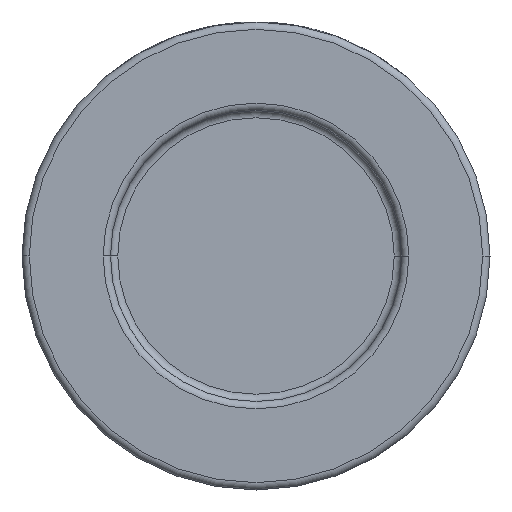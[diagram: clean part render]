
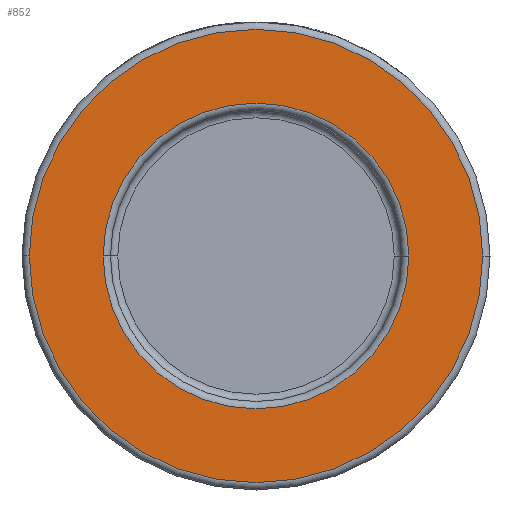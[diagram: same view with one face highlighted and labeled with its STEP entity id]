
A CAD part, front view. The second image highlights one B-rep face of the part: STEP entity #852.
In plain terms, the highlighted planar face has unit normal (0, -1, 0).
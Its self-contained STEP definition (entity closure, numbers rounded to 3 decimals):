
#107 = AXIS2_PLACEMENT_3D ( 'NONE', #349, #1408, #2802 ) ;
#213 = DIRECTION ( 'NONE',  ( 1., 0., 0. ) ) ;
#349 = CARTESIAN_POINT ( 'NONE',  ( 0., -22., 0. ) ) ;
#396 = EDGE_CURVE ( 'NONE', #1656, #647, #3660, .T. ) ;
#517 = CIRCLE ( 'NONE', #1252, 31. ) ;
#521 = AXIS2_PLACEMENT_3D ( 'NONE', #1319, #996, #213 ) ;
#599 = ORIENTED_EDGE ( 'NONE', *, *, #2928, .T. ) ;
#647 = VERTEX_POINT ( 'NONE', #1336 ) ;
#852 = ADVANCED_FACE ( 'NONE', ( #4519, #2651 ), #4079, .T. ) ;
#897 = DIRECTION ( 'NONE',  ( 1., 0., 0. ) ) ;
#932 = CARTESIAN_POINT ( 'NONE',  ( 31., -22., 0. ) ) ;
#996 = DIRECTION ( 'NONE',  ( 0., -1., 0. ) ) ;
#1105 = CIRCLE ( 'NONE', #521, 31. ) ;
#1111 = VERTEX_POINT ( 'NONE', #932 ) ;
#1252 = AXIS2_PLACEMENT_3D ( 'NONE', #1603, #1650, #2365 ) ;
#1319 = CARTESIAN_POINT ( 'NONE',  ( 0., -22., 0. ) ) ;
#1336 = CARTESIAN_POINT ( 'NONE',  ( 20.9, -22., 0. ) ) ;
#1408 = DIRECTION ( 'NONE',  ( 0., 1., 0. ) ) ;
#1603 = CARTESIAN_POINT ( 'NONE',  ( 0., -22., 0. ) ) ;
#1636 = VERTEX_POINT ( 'NONE', #2753 ) ;
#1650 = DIRECTION ( 'NONE',  ( 0., -1., 0. ) ) ;
#1656 = VERTEX_POINT ( 'NONE', #3849 ) ;
#1761 = EDGE_LOOP ( 'NONE', ( #2279, #3126 ) ) ;
#1826 = AXIS2_PLACEMENT_3D ( 'NONE', #2241, #3038, #2265 ) ;
#2241 = CARTESIAN_POINT ( 'NONE',  ( 0., -22., 0. ) ) ;
#2265 = DIRECTION ( 'NONE',  ( 1., 0., 0. ) ) ;
#2279 = ORIENTED_EDGE ( 'NONE', *, *, #3013, .T. ) ;
#2365 = DIRECTION ( 'NONE',  ( 1., 0., 0. ) ) ;
#2651 = FACE_OUTER_BOUND ( 'NONE', #4172, .T. ) ;
#2753 = CARTESIAN_POINT ( 'NONE',  ( -31., -22., 0. ) ) ;
#2802 = DIRECTION ( 'NONE',  ( 1., 0., 0. ) ) ;
#2928 = EDGE_CURVE ( 'NONE', #1636, #1111, #517, .T. ) ;
#3013 = EDGE_CURVE ( 'NONE', #647, #1656, #3106, .T. ) ;
#3038 = DIRECTION ( 'NONE',  ( 0., 1., 0. ) ) ;
#3091 = CARTESIAN_POINT ( 'NONE',  ( 32., -22., 0. ) ) ;
#3106 = CIRCLE ( 'NONE', #1826, 20.9 ) ;
#3126 = ORIENTED_EDGE ( 'NONE', *, *, #396, .T. ) ;
#3660 = CIRCLE ( 'NONE', #107, 20.9 ) ;
#3849 = CARTESIAN_POINT ( 'NONE',  ( -20.9, -22., 0. ) ) ;
#3901 = EDGE_CURVE ( 'NONE', #1111, #1636, #1105, .T. ) ;
#3987 = ORIENTED_EDGE ( 'NONE', *, *, #3901, .T. ) ;
#4059 = DIRECTION ( 'NONE',  ( 0., -1., 0. ) ) ;
#4079 = PLANE ( 'NONE',  #4331 ) ;
#4172 = EDGE_LOOP ( 'NONE', ( #3987, #599 ) ) ;
#4331 = AXIS2_PLACEMENT_3D ( 'NONE', #3091, #4059, #897 ) ;
#4519 = FACE_BOUND ( 'NONE', #1761, .T. ) ;
